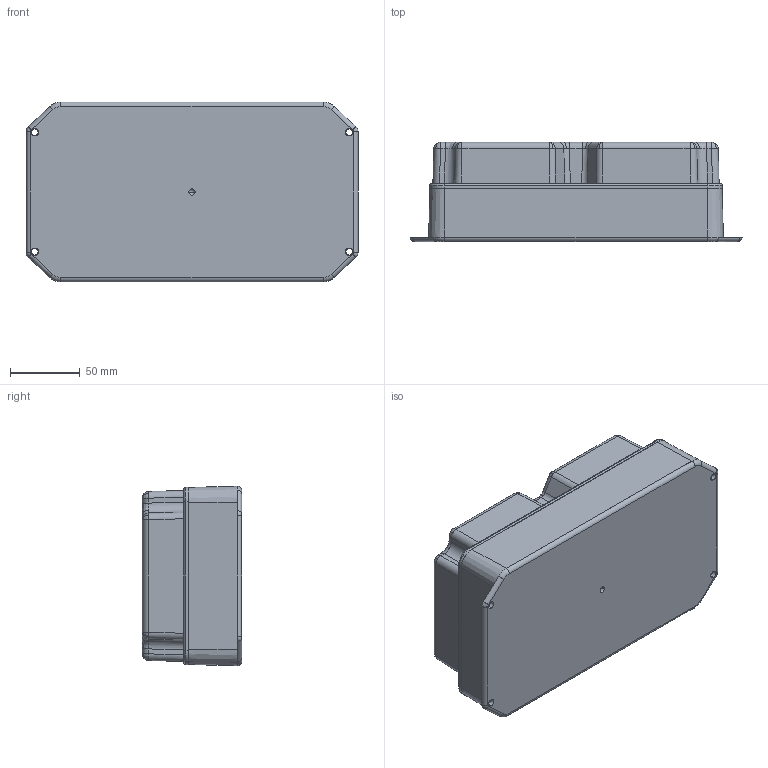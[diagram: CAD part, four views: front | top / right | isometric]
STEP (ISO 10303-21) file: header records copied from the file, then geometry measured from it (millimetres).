
FILE_DESCRIPTION (( 'STEP AP214' ), '1' );
FILE_NAME ('DC-59FMBYTGT.STEP', '2017-06-13T13:20:02', ( '' ), ( '' ), 'SwSTEP 2.0', 'SolidWorks 2016', '' );
FILE_SCHEMA (( 'AUTOMOTIVE_DESIGN' ));
Length unit declared in the file: inch
Products named in the file (8): DC-85C_DC-85CMBT; SCREWS-DC2-BR; O-RING; DC-59FMBYTGT; DC-57B_DC-57BFMBY; GASKET; DC-57B-PCB; GASKET-58-KIT_GASKET-58-KIT
Assembly tree (17 placements, depth 3):
  DC-59FMBYTGT
    DC-57B_DC-57BFMBY
    DC-85C_DC-85CMBT
    SCREWS-DC2-BR  x6
    GASKET-58-KIT_GASKET-58-KIT
      GASKET
      O-RING  x6
    DC-57B-PCB
Bounding box: 238.13 x 71.3 x 128.83 mm (x, y, z)
Volume: 361316.7 mm3; surface area: 264701.6 mm2
Topology: 22 solids, 22 shells, 1074 faces, 2553 edges, 1588 vertices
Faces by surface type: plane 319, cylinder 315, cone 200, bspline 160, torus 64, sphere 16
Entity records: 30872 total; most frequent: CARTESIAN_POINT 8637, DIRECTION 4331, ORIENTED_EDGE 4302, EDGE_CURVE 2151, AXIS2_PLACEMENT_3D 1744, VERTEX_POINT 1338, EDGE_LOOP 1053, CIRCLE 964
